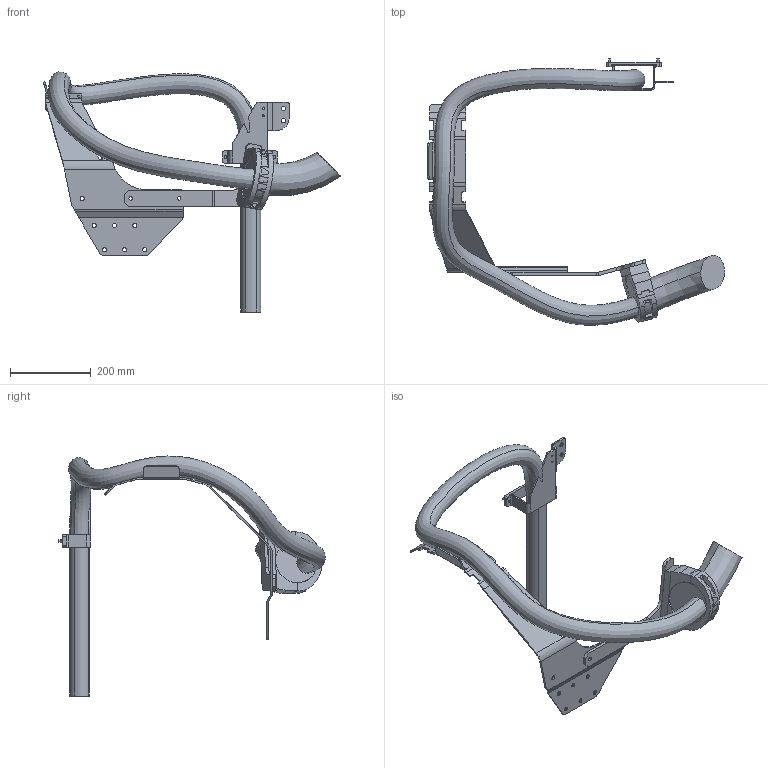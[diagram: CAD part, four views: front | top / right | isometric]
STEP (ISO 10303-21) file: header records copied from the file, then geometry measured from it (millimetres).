
FILE_DESCRIPTION (( 'STEP AP214' ), '1' );
FILE_NAME ('IRB6720-LID-SW_215kg-265_OC_00_LINK01_CABLE.step', '2026-05-26T08:17:05', ( '' ), ( '' ), 'SwSTEP 2.0', 'SolidWorks 2024', '' );
FILE_SCHEMA (( 'AUTOMOTIVE_DESIGN' ));
Length unit declared in the file: millimetre
Products named in the file (1): IRB6720-LID-SW_215kg-265_OC_00_LINK01_CABLE
Bounding box: 736.08 x 660.11 x 594.58 mm (x, y, z)
Volume: 5960013.5 mm3; surface area: 662112.1 mm2
Topology: 1 solids, 1 shells, 398 faces, 1027 edges, 639 vertices
Faces by surface type: plane 222, cylinder 157, bspline 15, cone 4
Entity records: 65376 total; most frequent: CARTESIAN_POINT 51281, ORIENTED_EDGE 2054, DIRECTION 1986, EDGE_CURVE 1027, AXIS2_PLACEMENT_3D 684, VERTEX_POINT 639, LINE 618, VECTOR 618
